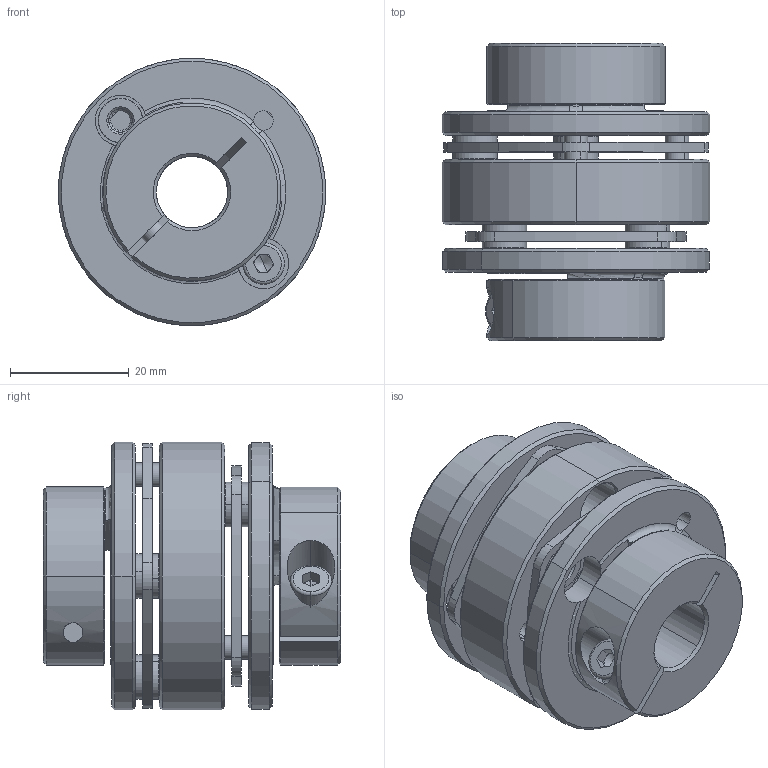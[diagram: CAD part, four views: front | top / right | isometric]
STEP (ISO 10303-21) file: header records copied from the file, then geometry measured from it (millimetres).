
FILE_DESCRIPTION (( 'STEP AP203' ), '1' );
FILE_NAME ('LE2-B-D45L50-12-12.STEP', '2021-11-01T06:28:53', ( '' ), ( '' ), 'SwSTEP 2.0', 'SolidWorks 2018', '' );
FILE_SCHEMA (( 'CONFIG_CONTROL_DESIGN' ));
Length unit declared in the file: millimetre
Products named in the file (1): LE2-B-D45L50-12-12
Bounding box: 45 x 50 x 45 mm (x, y, z)
Volume: 36440.8 mm3; surface area: 23841.6 mm2
Topology: 1 solids, 5 shells, 494 faces, 1194 edges, 732 vertices
Faces by surface type: cylinder 178, cone 154, plane 142, torus 18, bspline 2
Entity records: 14963 total; most frequent: CARTESIAN_POINT 2891, DIRECTION 2748, ORIENTED_EDGE 2364, EDGE_CURVE 1182, AXIS2_PLACEMENT_3D 1123, VERTEX_POINT 732, CIRCLE 630, EDGE_LOOP 586
